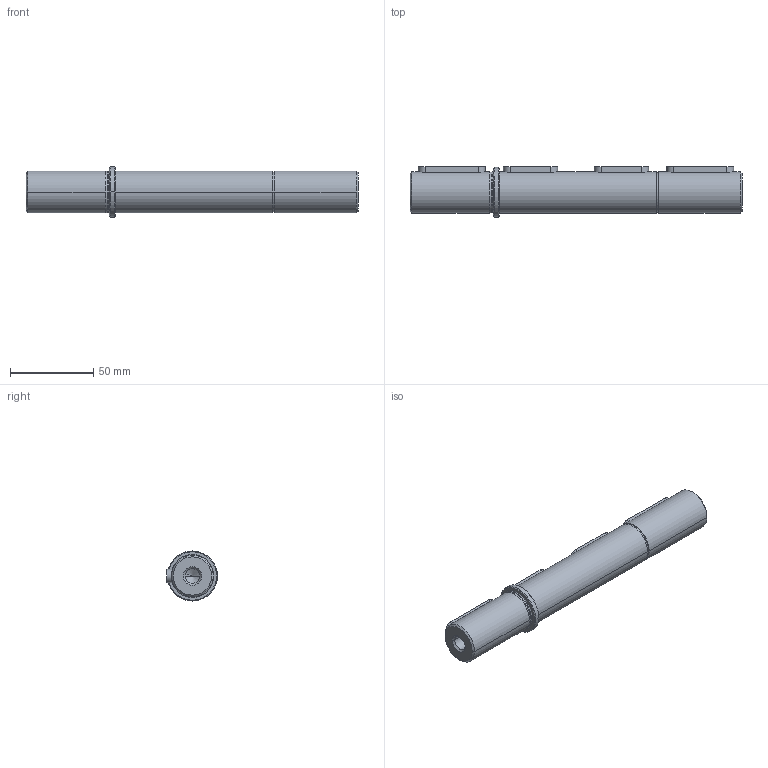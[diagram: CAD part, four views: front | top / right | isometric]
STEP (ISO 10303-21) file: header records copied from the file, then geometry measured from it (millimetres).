
FILE_DESCRIPTION((''),'2;1');
FILE_NAME('SOSB50','2013-09-10T',('tecnicocad'),(''),'PRO/ENGINEER BY PARAMETRIC TECHNOLOGY CORPORATION, 2011490','PRO/ENGINEER BY PARAMETRIC TECHNOLOGY CORPORATION, 2011490','');
FILE_SCHEMA(('CONFIG_CONTROL_DESIGN'));
Length unit declared in the file: millimetre
Products named in the file (1): SOSB50
Bounding box: 199 x 30.5 x 30 mm (x, y, z)
Volume: 97388.7 mm3; surface area: 20095.9 mm2
Topology: 1 solids, 1 shells, 62 faces, 146 edges, 88 vertices
Faces by surface type: cylinder 24, plane 18, cone 18, torus 2
Entity records: 1871 total; most frequent: CARTESIAN_POINT 415, DIRECTION 306, ORIENTED_EDGE 284, EDGE_CURVE 142, AXIS2_PLACEMENT_3D 118, VERTEX_POINT 88, VECTOR 70, LINE 70
